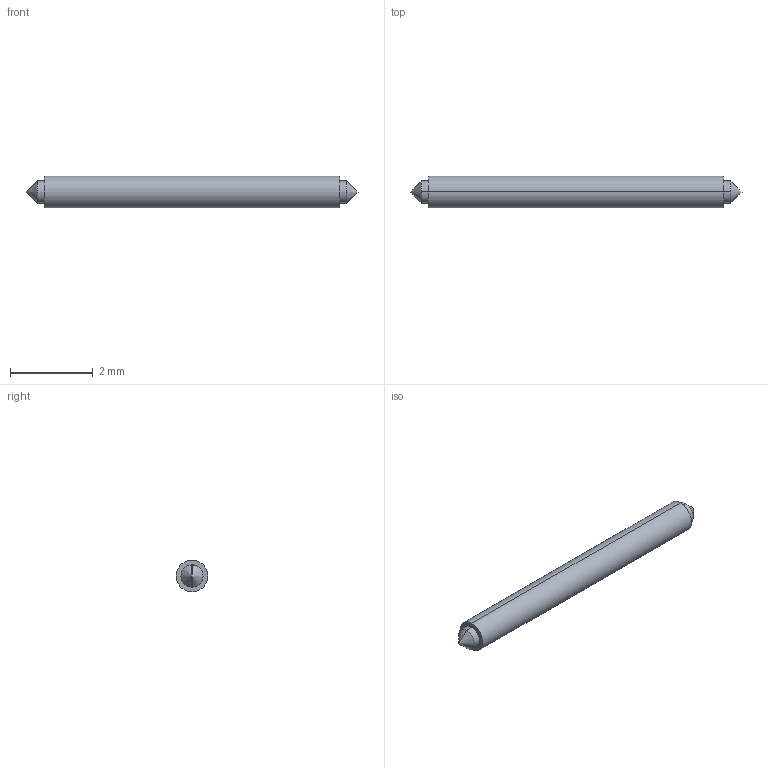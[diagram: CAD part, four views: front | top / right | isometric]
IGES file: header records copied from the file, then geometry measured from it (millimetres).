
Start section: SolidWorks IGES file using analytic representation for surfaces
Global section: file name: Z:\probe solid model mockups\Solidworks models\IGES Files\CSP1-1.27 IGES files\CSP1-1.27BB RECD.IGS; native system: SolidWorks 2006 by SolidWorks Corporation; preprocessor: SolidWorks 2006 by SolidWorks Corporation; author: tsakatani; date: 080108.155318; units: inch
Bounding box: 8 x 0.76 x 0.76 mm (x, y, z)
Surface area: 18.7 mm2 (no closed solid volume)
Topology: 0 solids, 0 shells, 12 faces, 104 edges, 100 vertices
Faces by surface type: revolution 10, bspline 2
